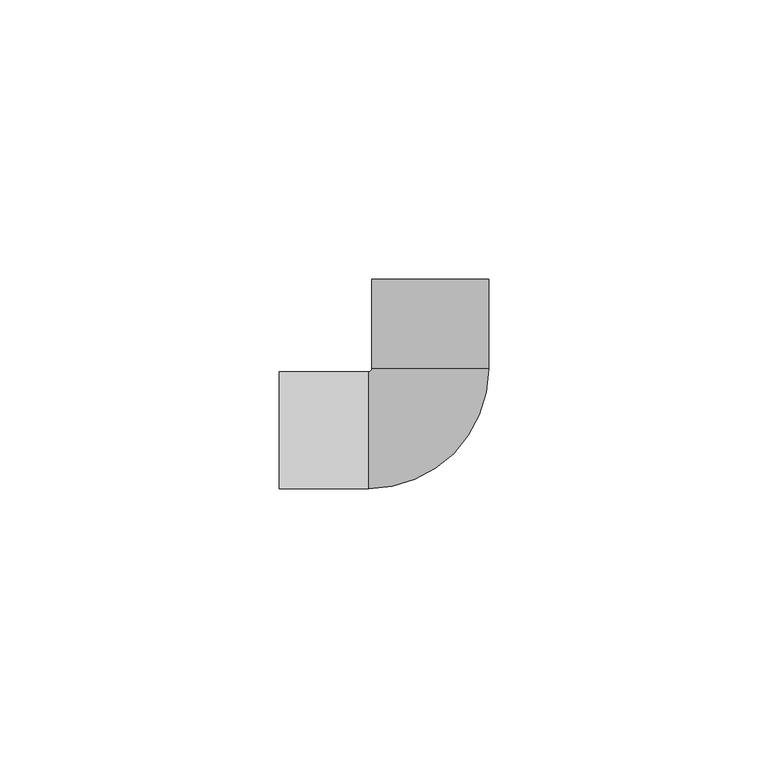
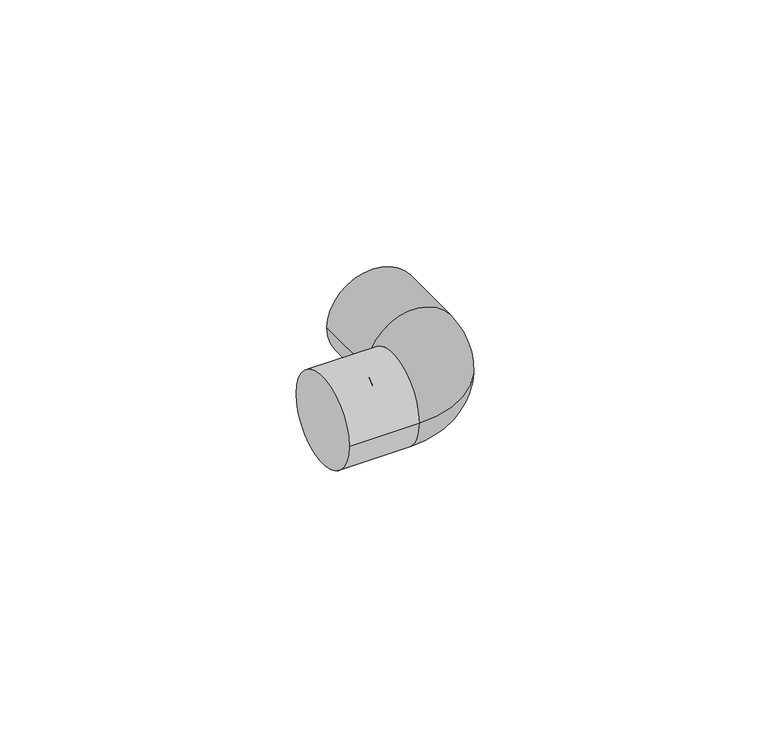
"""IFC4 building model written with IfcOpenShell, lengths in millimetres: pipe fitting geometry, 01051001 : Joelho a 90º."""

from ifc_helpers import new_model, si_unit, point, frame, origin, place, context, project, spatial, circle_curve, ellipse_curve, trimmed, source, transform, mapped, element, save
from ifc_brep_helpers import plane_surface, cylinder_surface, revolved_surface, advanced_brep


def pipe_fitting_843f52c1(model_context):
    return source(origin(), model_context, "Body", "AdvancedBrep", [
        advanced_brep(
        [(-11.0, -10.45, 0.0), (10.45, 11.0, 0.0), (-10.45, 11.0, 0.0), (-11.0, 10.45, 0.0), (-10.45, 27.0, 0.0), (10.45, 27.0, 0.0), (-27.0, 10.45, 0.0), (-27.0, -10.45, 0.0)],
        [
            (0, 1, circle_curve(frame((-11.0, 11.0, 0.0), z_axis=(0.0, 0.0, 1.0), x_axis=(1.0, 0.0, 0.0)), 21.45)),
            (1, 2, circle_curve(frame((0.0, 11.0, 0.0), z_axis=(0.0, -1.0, 0.0), x_axis=(1.0, 0.0, 0.0)), 10.45)),
            (2, 3, circle_curve(frame((-11.0, 11.0, 0.0), z_axis=(0.0, 0.0, -1.0), x_axis=(1.0, 0.0, 0.0)), 0.55)),
            (3, 0, circle_curve(frame((-11.0, 0.0, 0.0), z_axis=(1.0, 0.0, 0.0), x_axis=(0.0, -1.0, 0.0)), 10.45)),
            (2, 1, circle_curve(frame((0.0, 11.0, 0.0), z_axis=(0.0, -1.0, 0.0), x_axis=(1.0, 0.0, 0.0)), 10.45)),
            (0, 3, circle_curve(frame((-11.0, 0.0, 0.0), z_axis=(1.0, 0.0, 0.0), x_axis=(0.0, -1.0, 0.0)), 10.45)),
            (4, 5, circle_curve(frame((0.0, 27.0, 0.0), z_axis=(0.0, 1.0, 0.0), x_axis=(1.0, 0.0, 0.0)), 10.45)),
            (5, 4, circle_curve(frame((0.0, 27.0, 0.0), z_axis=(0.0, 1.0, 0.0), x_axis=(1.0, 0.0, 0.0)), 10.45)),
            (4, 2),
            (1, 5),
            (6, 7, circle_curve(frame((-27.0, 0.0, 0.0), z_axis=(-1.0, 0.0, 0.0), x_axis=(0.0, -1.0, 0.0)), 10.45)),
            (7, 6, circle_curve(frame((-27.0, 0.0, 0.0), z_axis=(-1.0, 0.0, 0.0), x_axis=(0.0, -1.0, 0.0)), 10.45)),
            (3, 6),
            (7, 0),
        ],
        [
            revolved_surface(trimmed(ellipse_curve(frame((0.0, 11.0, 0.0), z_axis=(0.0, 1.0, 0.0), x_axis=(1.0, 0.0, 0.0)), 10.45, 10.45), [point((-10.45, 11.0, 0.0))], [point((10.45, 11.0, 0.0))], True, "CARTESIAN"), (-11.0, 11.0, 0.0), (0.0, 0.0, -1.0)),
            revolved_surface(trimmed(ellipse_curve(frame((0.0, 11.0, 0.0), z_axis=(0.0, 1.0, 0.0), x_axis=(1.0, 0.0, 0.0)), 10.45, 10.45), [point((10.45, 11.0, 0.0))], [point((-10.45, 11.0, 0.0))], True, "CARTESIAN"), (-11.0, 11.0, 0.0), (0.0, 0.0, -1.0)),
            plane_surface(frame((0.0, 27.0, 0.0), z_axis=(0.0, 1.0, 0.0), x_axis=(0.0, 0.0, 1.0))),
            cylinder_surface(frame((0.0, 27.0, 0.0), z_axis=(0.0, 1.0, 0.0), x_axis=(1.0, 0.0, 0.0)), 10.45),
            plane_surface(frame((-27.0, 0.0, 0.0), z_axis=(-1.0, 0.0, 0.0), x_axis=(0.0, 0.0, 1.0))),
            cylinder_surface(frame((-11.0, 0.0, 0.0), z_axis=(1.0, 0.0, 0.0), x_axis=(0.0, -1.0, 0.0)), 10.45),
        ],
        [
            (0, [[1, 2, 3, 4]]),
            (1, [[-3, 5, -1, 6]]),
            (2, [[7, 8]]),
            (3, [[-7, 9, -2, 10]]),
            (3, [[-8, -10, -5, -9]]),
            (4, [[11, 12]]),
            (5, [[-4, 13, -12, 14]]),
            (5, [[-6, -14, -11, -13]]),
        ],
    ),
    ])


if __name__ == "__main__":
    model = new_model("IFC4")
    model_context = context("Model", 3, world=origin())
    ifc_project = project(units=[si_unit("LENGTHUNIT", "METRE", prefix="MILLI")], contexts=[model_context])
    site = spatial("IfcSite", under=ifc_project)
    building = spatial("IfcBuilding", under=site)
    placement = place(None, origin())
    pipe_fitting_shape = pipe_fitting_843f52c1(model_context)
    element("IfcPipeFitting", 1, ObjectType="01051001 : Joelho a 90º", at=placement, inside=building, context=model_context, shape_type="MappedRepresentation", body=[
        mapped(pipe_fitting_shape, transform((0.0, 0.0, 0.0), x_axis=(1.0, 0.0, 0.0), y_axis=(0.0, 1.0, 0.0), z_axis=(0.0, 0.0, 1.0))),
    ])
    save(model, "model.ifc")
